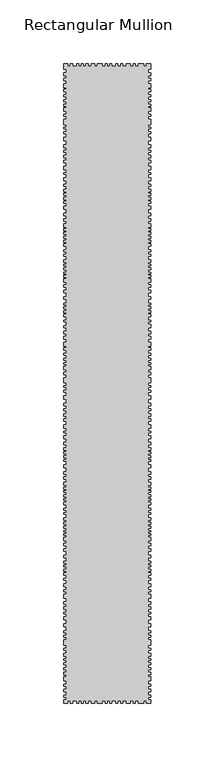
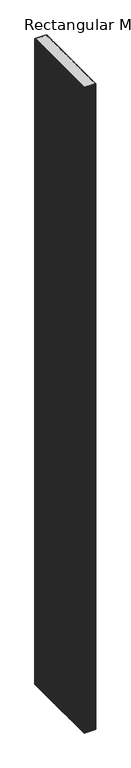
"""IFC4 building model written with IfcOpenShell, lengths in millimetres: member geometry, Rectangular Mullion : DucoSun Cubic Design louvre 500."""

from ifc_helpers import new_model, si_unit, frame, origin, place, context, project, spatial, polyline, outline, extrude, source, transform, mapped, element, save


def rectangular_mullion_54078338(model_context):
    return source(origin(), model_context, "Body", "SweptSolid", [
        extrude(outline(polyline([(0.0, -497.3782451), (0.0, -500.0), (-3.5455586, -500.0), (-3.5455586, -498.0), (-5.372058, -498.0), (-5.372058, -500.0), (-10.0157006, -500.0), (-10.0157006, -498.0), (-12.1827337, -498.0), (-12.1827337, -500.0), (-13.6996569, -500.0), (-13.6996569, -498.0), (-16.0524358, -498.0), (-16.0524358, -500.0), (-19.1172399, -500.0), (-19.1172399, -498.0), (-21.9034254, -498.0), (-21.9034254, -500.0), (-23.6060943, -500.0), (-23.6060943, -498.0), (-25.9898308, -498.0), (-25.9898308, -500.0), (-27.4757964, -500.0), (-27.4757964, -498.0), (-30.5115322, -498.0), (-30.5115322, -500.0), (-32.2905711, -500.0), (-32.2905711, -498.0), (-34.0, -498.0), (-34.0, -500.0), (-35.8486488, -500.0), (-35.8486488, -498.0), (-38.2128978, -498.0), (-38.2128978, -500.0), (-41.9816511, -500.0), (-41.9816511, -498.0), (-44.0415908, -498.0), (-44.0415908, -500.0), (-46.7335575, -500.0), (-46.7335575, -498.0), (-49.0041729, -498.0), (-49.0041729, -500.0), (-50.8768453, -500.0), (-50.8768453, -498.0), (-52.9367851, -498.0), (-52.9367851, -500.0), (-54.2710642, -500.0), (-54.2710642, -498.0), (-56.3075955, -498.0), (-56.3075955, -500.0), (-57.8993671, -500.0), (-57.8993671, -498.0), (-60.9658683, -498.0), (-60.9658683, -500.0), (-62.9321744, -500.0), (-62.9321744, -498.0), (-64.8750721, -498.0), (-64.8750721, -500.0), (-68.0, -500.0), (-68.0, -497.3782451), (-66.0, -497.3782451), (-66.0, -495.4241521), (-68.0, -495.4241521), (-68.0, -493.6532553), (-66.0, -493.6532553), (-66.0, -490.9460223), (-68.0, -490.9460223), (-68.0, -488.9105087), (-66.0, -488.9105087), (-66.0, -486.7121541), (-68.0, -486.7121541), (-68.0, -485.0023227), (-66.0, -485.0023227), (-66.0, -482.3561551), (-68.0, -482.3561551), (-68.0, -479.3843053), (-66.0, -479.3843053), (-66.0, -477.8917893), (-68.0, -477.8917893), (-68.0, -475.8425117), (-66.0, -475.8425117), (-66.0, -473.8680636), (-68.0, -473.8680636), (-68.0, -472.1582322), (-66.0, -472.1582322), (-66.0, -470.0820083), (-68.0, -470.0820083), (-68.0, -468.3111116), (-66.0, -468.3111116), (-66.0, -466.4995045), (-68.0, -466.4995045), (-68.0, -465.0713495), (-66.0, -465.0713495), (-66.0, -463.4577392), (-68.0, -463.4577392), (-68.0, -461.0328231), (-66.0, -461.0328231), (-66.0, -458.5725067), (-68.0, -458.5725067), (-68.0, -457.0325964), (-66.0, -457.0325964), (-66.0, -454.5014796), (-68.0, -454.5014796), (-68.0, -450.4127524), (-66.0, -450.4127524), (-66.0, -448.4126391), (-68.0, -448.4126391), (-68.0, -446.8373286), (-66.0, -446.8373286), (-66.0, -444.9965163), (-68.0, -444.9965163), (-68.0, -443.3504053), (-66.0, -443.3504053), (-66.0, -440.3767855), (-68.0, -440.3767855), (-68.0, -437.9545244), (-66.0, -437.9545244), (-66.0, -434.5552168), (-68.0, -434.5552168), (-68.0, -432.5197032), (-66.0, -432.5197032), (-66.0, -430.239928), (-68.0, -430.239928), (-68.0, -428.6929377), (-66.0, -428.6929377), (-66.0, -426.4335177), (-68.0, -426.4335177), (-68.0, -424.5608452), (-66.0, -424.5608452), (-66.0, -422.6271073), (-68.0, -422.6271073), (-68.0, -420.5508835), (-66.0, -420.5508835), (-66.0, -418.0064916), (-68.0, -418.0064916), (-68.0, -414.9328661), (-66.0, -414.9328661), (-66.0, -412.9177077), (-68.0, -412.9177077), (-68.0, -411.4114277), (-66.0, -411.4114277), (-66.0, -408.9688114), (-68.0, -408.9688114), (-68.0, -406.7118273), (-66.0, -406.7118273), (-66.0, -403.8852623), (-68.0, -403.8852623), (-68.0, -402.4316003), (-66.0, -402.4316003), (-66.0, -399.9011516), (-68.0, -399.9011516), (-68.0, -397.8552569), (-66.0, -397.8552569), (-66.0, -396.6169522), (-68.0, -396.6169522), (-68.0, -395.0825312), (-66.0, -395.0825312), (-66.0, -393.4673512), (-68.0, -393.4673512), (-68.0, -392.0675286), (-66.0, -392.0675286), (-66.0, -390.5869469), (-68.0, -390.5869469), (-68.0, -389.1602046), (-66.0, -389.1602046), (-66.0, -386.3310055), (-68.0, -386.3310055), (-68.0, -384.2608252), (-66.0, -384.2608252), (-66.0, -381.1919832), (-68.0, -381.1919832), (-68.0, -379.2537672), (-66.0, -379.2537672), (-66.0, -376.9360418), (-68.0, -376.9360418), (-68.0, -375.0004598), (-66.0, -375.0004598), (-66.0, -372.9007258), (-68.0, -372.9007258), (-68.0, -370.1010805), (-66.0, -370.1010805), (-66.0, -368.8089365), (-68.0, -368.8089365), (-68.0, -367.3014351), (-66.0, -367.3014351), (-66.0, -366.0362108), (-68.0, -366.0362108), (-68.0, -365.0401831), (-66.0, -365.0401831), (-66.0, -363.2096458), (-68.0, -363.2096458), (-68.0, -361.6483051), (-66.0, -361.6483051), (-66.0, -360.1408038), (-68.0, -360.1408038), (-68.0, -358.6063828), (-66.0, -358.6063828), (-66.0, -357.0719618), (-68.0, -357.0719618), (-68.0, -355.0799064), (-66.0, -355.0799064), (-66.0, -352.3762692), (-68.0, -352.3762692), (-68.0, -350.8903036), (-66.0, -350.8903036), (-66.0, -349.1257194), (-68.0, -349.1257194), (-68.0, -347.6087962), (-66.0, -347.6087962), (-66.0, -344.8535683), (-68.0, -344.8535683), (-68.0, -342.7484504), (-66.0, -342.7484504), (-66.0, -341.4172729), (-68.0, -341.4172729), (-68.0, -339.9622649), (-66.0, -339.9622649), (-66.0, -338.3524688), (-68.0, -338.3524688), (-68.0, -336.8355456), (-66.0, -336.8355456), (-66.0, -335.1947919), (-68.0, -335.1947919), (-68.0, -333.9255296), (-66.0, -333.9255296), (-66.0, -332.5014792), (-68.0, -332.5014792), (-68.0, -331.1083865), (-66.0, -331.1083865), (-66.0, -329.6843361), (-68.0, -329.6843361), (-68.0, -327.0529387), (-66.0, -327.0529387), (-66.0, -324.9787784), (-68.0, -324.9787784), (-68.0, -323.0284485), (-66.0, -323.0284485), (-66.0, -320.7995001), (-68.0, -320.7995001), (-68.0, -318.8182126), (-66.0, -318.8182126), (-66.0, -315.6914933), (-68.0, -315.6914933), (-68.0, -313.4935025), (-66.0, -313.4935025), (-66.0, -310.954978), (-68.0, -310.954978), (-68.0, -309.4070971), (-66.0, -309.4070971), (-66.0, -308.1378348), (-68.0, -308.1378348), (-68.0, -306.4970812), (-66.0, -306.4970812), (-66.0, -304.8253698), (-68.0, -304.8253698), (-68.0, -303.3394042), (-66.0, -303.3394042), (-66.0, -302.0391843), (-68.0, -302.0391843), (-68.0, -300.0578969), (-66.0, -300.0578969), (-66.0, -297.6741604), (-68.0, -297.6741604), (-68.0, -296.0953219), (-66.0, -296.0953219), (-66.0, -293.3091364), (-68.0, -293.3091364), (-68.0, -291.0182728), (-66.0, -291.0182728), (-66.0, -288.572621), (-68.0, -288.572621), (-68.0, -287.1485707), (-66.0, -287.1485707), (-66.0, -285.0124951), (-68.0, -285.0124951), (-68.0, -282.1643944), (-66.0, -282.1643944), (-66.0, -279.3782089), (-68.0, -279.3782089), (-68.0, -277.427879), (-66.0, -277.427879), (-66.0, -275.4156339), (-68.0, -275.4156339), (-68.0, -273.6510498), (-66.0, -273.6510498), (-66.0, -271.1744404), (-68.0, -271.1744404), (-68.0, -269.6884748), (-66.0, -269.6884748), (-66.0, -267.5523993), (-68.0, -267.5523993), (-68.0, -265.4163237), (-66.0, -265.4163237), (-66.0, -262.1967316), (-68.0, -262.1967316), (-68.0, -259.5343765), (-66.0, -259.5343765), (-66.0, -256.7791486), (-68.0, -256.7791486), (-68.0, -255.0764797), (-66.0, -255.0764797), (-66.0, -252.9404041), (-68.0, -252.9404041), (-68.0, -251.6092266), (-66.0, -251.6092266), (-66.0, -249.5660239), (-68.0, -249.5660239), (-68.0, -245.512038), (-66.0, -245.512038), (-66.0, -243.0030092), (-68.0, -243.0030092), (-68.0, -241.3312979), (-66.0, -241.3312979), (-66.0, -239.0404342), (-68.0, -239.0404342), (-68.0, -236.5638249), (-66.0, -236.5638249), (-66.0, -235.015944), (-68.0, -235.015944), (-68.0, -233.5609361), (-66.0, -233.5609361), (-66.0, -231.5796486), (-68.0, -231.5796486), (-68.0, -230.0627254), (-66.0, -230.0627254), (-66.0, -227.8337769), (-68.0, -227.8337769), (-68.0, -226.1620656), (-66.0, -226.1620656), (-66.0, -224.0259901), (-68.0, -224.0259901), (-68.0, -222.0756602), (-66.0, -222.0756602), (-66.0, -220.6516099), (-68.0, -220.6516099), (-68.0, -217.7415939), (-66.0, -217.7415939), (-66.0, -215.2030693), (-68.0, -215.2030693), (-68.0, -213.1908242), (-66.0, -213.1908242), (-66.0, -211.2404944), (-68.0, -211.2404944), (-68.0, -209.1353764), (-66.0, -209.1353764), (-66.0, -206.2563181), (-68.0, -206.2563181), (-68.0, -204.6155644), (-66.0, -204.6155644), (-66.0, -201.7889994), (-68.0, -201.7889994), (-68.0, -200.3353374), (-66.0, -200.3353374), (-66.0, -197.8048887), (-68.0, -197.8048887), (-68.0, -195.758994), (-66.0, -195.758994), (-66.0, -194.5206893), (-68.0, -194.5206893), (-68.0, -192.9862683), (-66.0, -192.9862683), (-66.0, -191.3710883), (-68.0, -191.3710883), (-68.0, -189.9712657), (-66.0, -189.9712657), (-66.0, -188.490684), (-68.0, -188.490684), (-68.0, -187.0639417), (-66.0, -187.0639417), (-66.0, -184.2347426), (-68.0, -184.2347426), (-68.0, -182.1645623), (-66.0, -182.1645623), (-66.0, -179.0957203), (-68.0, -179.0957203), (-68.0, -177.1575043), (-66.0, -177.1575043), (-66.0, -174.8397789), (-68.0, -174.8397789), (-68.0, -172.9041969), (-66.0, -172.9041969), (-66.0, -170.8044629), (-68.0, -170.8044629), (-68.0, -168.0048176), (-66.0, -168.0048176), (-66.0, -166.7126736), (-68.0, -166.7126736), (-68.0, -165.2051722), (-66.0, -165.2051722), (-66.0, -163.9399479), (-68.0, -163.9399479), (-68.0, -162.9439202), (-66.0, -162.9439202), (-66.0, -161.1133829), (-68.0, -161.1133829), (-68.0, -159.5520422), (-66.0, -159.5520422), (-66.0, -158.0445409), (-68.0, -158.0445409), (-68.0, -156.5101199), (-66.0, -156.5101199), (-66.0, -154.9756989), (-68.0, -154.9756989), (-68.0, -152.9836435), (-66.0, -152.9836435), (-66.0, -150.2800063), (-68.0, -150.2800063), (-68.0, -148.7940407), (-66.0, -148.7940407), (-66.0, -147.0294565), (-68.0, -147.0294565), (-68.0, -145.5125333), (-66.0, -145.5125333), (-66.0, -142.7573054), (-68.0, -142.7573054), (-68.0, -140.6521875), (-66.0, -140.6521875), (-66.0, -139.32101), (-68.0, -139.32101), (-68.0, -137.866002), (-66.0, -137.866002), (-66.0, -136.2562059), (-68.0, -136.2562059), (-68.0, -134.7392827), (-66.0, -134.7392827), (-66.0, -133.098529), (-68.0, -133.098529), (-68.0, -131.8292667), (-66.0, -131.8292667), (-66.0, -130.4052163), (-68.0, -130.4052163), (-68.0, -129.0121236), (-66.0, -129.0121236), (-66.0, -127.5880732), (-68.0, -127.5880732), (-68.0, -124.9566758), (-66.0, -124.9566758), (-66.0, -122.8825155), (-68.0, -122.8825155), (-68.0, -120.9321856), (-66.0, -120.9321856), (-66.0, -118.7032372), (-68.0, -118.7032372), (-68.0, -116.7219497), (-66.0, -116.7219497), (-66.0, -113.5952304), (-68.0, -113.5952304), (-68.0, -111.3972396), (-66.0, -111.3972396), (-66.0, -108.8587151), (-68.0, -108.8587151), (-68.0, -107.3108342), (-66.0, -107.3108342), (-66.0, -106.0415719), (-68.0, -106.0415719), (-68.0, -104.4008183), (-66.0, -104.4008183), (-66.0, -102.7291069), (-68.0, -102.7291069), (-68.0, -101.2431413), (-66.0, -101.2431413), (-66.0, -99.9429214), (-68.0, -99.9429214), (-68.0, -97.961634), (-66.0, -97.961634), (-66.0, -95.5778975), (-68.0, -95.5778975), (-68.0, -93.999059), (-66.0, -93.999059), (-66.0, -91.2128735), (-68.0, -91.2128735), (-68.0, -88.9220099), (-66.0, -88.9220099), (-66.0, -86.4763581), (-68.0, -86.4763581), (-68.0, -85.0523078), (-66.0, -85.0523078), (-66.0, -82.9162322), (-68.0, -82.9162322), (-68.0, -80.0681315), (-66.0, -80.0681315), (-66.0, -77.281946), (-68.0, -77.281946), (-68.0, -75.3316161), (-66.0, -75.3316161), (-66.0, -73.319371), (-68.0, -73.319371), (-68.0, -71.5547869), (-66.0, -71.5547869), (-66.0, -69.0781775), (-68.0, -69.0781775), (-68.0, -67.5922119), (-66.0, -67.5922119), (-66.0, -65.4561364), (-68.0, -65.4561364), (-68.0, -63.3200608), (-66.0, -63.3200608), (-66.0, -60.1004687), (-68.0, -60.1004687), (-68.0, -57.4381136), (-66.0, -57.4381136), (-66.0, -54.6828857), (-68.0, -54.6828857), (-68.0, -52.9802168), (-66.0, -52.9802168), (-66.0, -50.8441412), (-68.0, -50.8441412), (-68.0, -49.5129637), (-66.0, -49.5129637), (-66.0, -47.469761), (-68.0, -47.469761), (-68.0, -43.4157751), (-66.0, -43.4157751), (-66.0, -40.9067463), (-68.0, -40.9067463), (-68.0, -39.235035), (-66.0, -39.235035), (-66.0, -36.9441713), (-68.0, -36.9441713), (-68.0, -34.467562), (-66.0, -34.467562), (-66.0, -32.9196811), (-68.0, -32.9196811), (-68.0, -31.4646731), (-66.0, -31.4646731), (-66.0, -29.4833857), (-68.0, -29.4833857), (-68.0, -27.9664625), (-66.0, -27.9664625), (-66.0, -25.737514), (-68.0, -25.737514), (-68.0, -24.0658027), (-66.0, -24.0658027), (-66.0, -21.9297272), (-68.0, -21.9297272), (-68.0, -19.9793973), (-66.0, -19.9793973), (-66.0, -18.555347), (-68.0, -18.555347), (-68.0, -15.645331), (-66.0, -15.645331), (-66.0, -13.1068064), (-68.0, -13.1068064), (-68.0, -11.0945613), (-66.0, -11.0945613), (-66.0, -9.1442315), (-68.0, -9.1442315), (-68.0, -7.0391135), (-66.0, -7.0391135), (-66.0, -4.0), (-68.0, -4.0), (-68.0, 0.0), (-64.8750721, 0.0), (-64.8750721, -2.0), (-62.9321744, -2.0), (-62.9321744, 0.0), (-60.9658683, 0.0), (-60.9658683, -2.0), (-57.8993671, -2.0), (-57.8993671, 0.0), (-56.3075955, 0.0), (-56.3075955, -2.0), (-54.2710642, -2.0), (-54.2710642, 0.0), (-52.9367851, 0.0), (-52.9367851, -2.0), (-50.8768453, -2.0), (-50.8768453, 0.0), (-49.0041729, 0.0), (-49.0041729, -2.0), (-46.7335575, -2.0), (-46.7335575, 0.0), (-44.0415908, 0.0), (-44.0415908, -2.0), (-41.9816511, -2.0), (-41.9816511, 0.0), (-38.2128978, 0.0), (-38.2128978, -2.0), (-35.8486488, -2.0), (-35.8486488, 0.0), (-34.0, 0.0), (-34.0, -2.0), (-32.2905711, -2.0), (-32.2905711, 0.0), (-30.5115322, 0.0), (-30.5115322, -2.0), (-27.4757964, -2.0), (-27.4757964, 0.0), (-25.9898308, 0.0), (-25.9898308, -2.0), (-23.6060943, -2.0), (-23.6060943, 0.0), (-21.9034254, 0.0), (-21.9034254, -2.0), (-19.1172399, -2.0), (-19.1172399, 0.0), (-16.0524358, 0.0), (-16.0524358, -2.0), (-13.6996569, -2.0), (-13.6996569, 0.0), (-12.1827337, 0.0), (-12.1827337, -2.0), (-10.0157006, -2.0), (-10.0157006, 0.0), (-5.372058, 0.0), (-5.372058, -2.0), (-3.5455586, -2.0), (-3.5455586, 0.0), (0.0, 0.0), (0.0, -4.0), (-2.0, -4.0), (-2.0, -7.0391135), (0.0, -7.0391135), (0.0, -9.1442315), (-2.0, -9.1442315), (-2.0, -11.0945613), (0.0, -11.0945613), (0.0, -13.1068064), (-2.0, -13.1068064), (-2.0, -15.645331), (0.0, -15.645331), (0.0, -18.555347), (-2.0, -18.555347), (-2.0, -19.9793973), (0.0, -19.9793973), (0.0, -21.9297272), (-2.0, -21.9297272), (-2.0, -24.0658027), (0.0, -24.0658027), (0.0, -25.737514), (-2.0, -25.737514), (-2.0, -27.9664625), (0.0, -27.9664625), (0.0, -29.4833857), (-2.0, -29.4833857), (-2.0, -31.4646731), (0.0, -31.4646731), (0.0, -32.9196811), (-2.0, -32.9196811), (-2.0, -34.467562), (0.0, -34.467562), (0.0, -36.9441713), (-2.0, -36.9441713), (-2.0, -39.235035), (0.0, -39.235035), (0.0, -40.9067463), (-2.0, -40.9067463), (-2.0, -43.4157751), (0.0, -43.4157751), (0.0, -47.469761), (-2.0, -47.469761), (-2.0, -49.5129637), (0.0, -49.5129637), (0.0, -50.8441412), (-2.0, -50.8441412), (-2.0, -52.9802168), (0.0, -52.9802168), (0.0, -54.6828857), (-2.0, -54.6828857), (-2.0, -57.4381136), (0.0, -57.4381136), (0.0, -60.1004687), (-2.0, -60.1004687), (-2.0, -63.3200608), (0.0, -63.3200608), (0.0, -65.4561364), (-2.0, -65.4561364), (-2.0, -67.5922119), (0.0, -67.5922119), (0.0, -69.0781775), (-2.0, -69.0781775), (-2.0, -71.5547869), (0.0, -71.5547869), (0.0, -73.319371), (-2.0, -73.319371), (-2.0, -75.3316161), (0.0, -75.3316161), (0.0, -77.281946), (-2.0, -77.281946), (-2.0, -80.0681315), (0.0, -80.0681315), (0.0, -82.9162322), (-2.0, -82.9162322), (-2.0, -85.0523078), (0.0, -85.0523078), (0.0, -86.4763581), (-2.0, -86.4763581), (-2.0, -88.9220099), (0.0, -88.9220099), (0.0, -91.2128735), (-2.0, -91.2128735), (-2.0, -93.999059), (0.0, -93.999059), (0.0, -95.5778975), (-2.0, -95.5778975), (-2.0, -97.961634), (0.0, -97.961634), (0.0, -99.9429214), (-2.0, -99.9429214), (-2.0, -101.2431413), (0.0, -101.2431413), (0.0, -102.7291069), (-2.0, -102.7291069), (-2.0, -104.4008183), (0.0, -104.4008183), (0.0, -106.0415719), (-2.0, -106.0415719), (-2.0, -107.3108342), (0.0, -107.3108342), (0.0, -108.8587151), (-2.0, -108.8587151), (-2.0, -111.3972396), (0.0, -111.3972396), (0.0, -113.5952304), (-2.0, -113.5952304), (-2.0, -116.7219497), (0.0, -116.7219497), (0.0, -118.7032372), (-2.0, -118.7032372), (-2.0, -120.9321856), (0.0, -120.9321856), (0.0, -122.8825155), (-2.0, -122.8825155), (-2.0, -124.9566758), (0.0, -124.9566758), (0.0, -127.5880732), (-2.0, -127.5880732), (-2.0, -129.0121236), (0.0, -129.0121236), (0.0, -130.4052163), (-2.0, -130.4052163), (-2.0, -131.8292667), (0.0, -131.8292667), (0.0, -133.098529), (-2.0, -133.098529), (-2.0, -134.7392827), (0.0, -134.7392827), (0.0, -136.2562059), (-2.0, -136.2562059), (-2.0, -137.866002), (0.0, -137.866002), (0.0, -139.32101), (-2.0, -139.32101), (-2.0, -140.6521875), (0.0, -140.6521875), (0.0, -142.7573054), (-2.0, -142.7573054), (-2.0, -145.5125333), (0.0, -145.5125333), (0.0, -147.0294565), (-2.0, -147.0294565), (-2.0, -148.7940407), (0.0, -148.7940407), (0.0, -150.2800063), (-2.0, -150.2800063), (-2.0, -152.9836435), (0.0, -152.9836435), (0.0, -154.9756989), (-2.0, -154.9756989), (-2.0, -156.5101199), (0.0, -156.5101199), (0.0, -158.0445409), (-2.0, -158.0445409), (-2.0, -159.5520422), (0.0, -159.5520422), (0.0, -161.1133829), (-2.0, -161.1133829), (-2.0, -162.9439202), (0.0, -162.9439202), (0.0, -163.9399479), (-2.0, -163.9399479), (-2.0, -165.2051722), (0.0, -165.2051722), (0.0, -166.7126736), (-2.0, -166.7126736), (-2.0, -168.0048176), (0.0, -168.0048176), (0.0, -170.8044629), (-2.0, -170.8044629), (-2.0, -172.9041969), (0.0, -172.9041969), (0.0, -174.8397789), (-2.0, -174.8397789), (-2.0, -177.1575043), (0.0, -177.1575043), (0.0, -179.0957203), (-2.0, -179.0957203), (-2.0, -182.1645623), (0.0, -182.1645623), (0.0, -184.2347426), (-2.0, -184.2347426), (-2.0, -187.0639417), (0.0, -187.0639417), (0.0, -188.490684), (-2.0, -188.490684), (-2.0, -189.9712657), (0.0, -189.9712657), (0.0, -191.3710883), (-2.0, -191.3710883), (-2.0, -192.9862683), (0.0, -192.9862683), (0.0, -194.5206893), (-2.0, -194.5206893), (-2.0, -195.758994), (0.0, -195.758994), (0.0, -197.8048887), (-2.0, -197.8048887), (-2.0, -200.3353374), (0.0, -200.3353374), (0.0, -201.7889994), (-2.0, -201.7889994), (-2.0, -203.7186411), (0.0, -203.7186411), (0.0, -206.2563181), (-2.0, -206.2563181), (-2.0, -209.1353764), (0.0, -209.1353764), (0.0, -211.2404944), (-2.0, -211.2404944), (-2.0, -213.1908242), (0.0, -213.1908242), (0.0, -215.2030693), (-2.0, -215.2030693), (-2.0, -217.7415939), (0.0, -217.7415939), (0.0, -220.6516099), (-2.0, -220.6516099), (-2.0, -222.0756602), (0.0, -222.0756602), (0.0, -224.0259901), (-2.0, -224.0259901), (-2.0, -226.1620656), (0.0, -226.1620656), (0.0, -227.8337769), (-2.0, -227.8337769), (-2.0, -230.0627254), (0.0, -230.0627254), (0.0, -231.5796486), (-2.0, -231.5796486), (-2.0, -233.5609361), (0.0, -233.5609361), (0.0, -235.015944), (-2.0, -235.015944), (-2.0, -236.5638249), (0.0, -236.5638249), (0.0, -239.0404342), (-2.0, -239.0404342), (-2.0, -241.3312979), (0.0, -241.3312979), (0.0, -243.0030092), (-2.0, -243.0030092), (-2.0, -245.512038), (0.0, -245.512038), (0.0, -249.5660239), (-2.0, -249.5660239), (-2.0, -251.6092266), (0.0, -251.6092266), (0.0, -252.9404041), (-2.0, -252.9404041), (-2.0, -255.0764797), (0.0, -255.0764797), (0.0, -256.7791486), (-2.0, -256.7791486), (-2.0, -259.5343765), (0.0, -259.5343765), (0.0, -262.1967316), (-2.0, -262.1967316), (-2.0, -265.4163237), (0.0, -265.4163237), (0.0, -267.5523993), (-2.0, -267.5523993), (-2.0, -269.6884748), (0.0, -269.6884748), (0.0, -271.1744404), (-2.0, -271.1744404), (-2.0, -273.6510498), (0.0, -273.6510498), (0.0, -275.4156339), (-2.0, -275.4156339), (-2.0, -277.427879), (0.0, -277.427879), (0.0, -279.3782089), (-2.0, -279.3782089), (-2.0, -282.1643944), (0.0, -282.1643944), (0.0, -285.0124951), (-2.0, -285.0124951), (-2.0, -287.1485707), (0.0, -287.1485707), (0.0, -288.572621), (-2.0, -288.572621), (-2.0, -291.0182728), (0.0, -291.0182728), (0.0, -293.3091364), (-2.0, -293.3091364), (-2.0, -296.0953219), (0.0, -296.0953219), (0.0, -297.6741604), (-2.0, -297.6741604), (-2.0, -300.0578969), (0.0, -300.0578969), (0.0, -302.0391843), (-2.0, -302.0391843), (-2.0, -303.3394042), (0.0, -303.3394042), (0.0, -304.8253698), (-2.0, -304.8253698), (-2.0, -306.4970812), (0.0, -306.4970812), (0.0, -308.1378348), (-2.0, -308.1378348), (-2.0, -309.4070971), (0.0, -309.4070971), (0.0, -310.954978), (-2.0, -310.954978), (-2.0, -313.4935025), (0.0, -313.4935025), (0.0, -315.6914933), (-2.0, -315.6914933), (-2.0, -318.8182126), (0.0, -318.8182126), (0.0, -320.7995001), (-2.0, -320.7995001), (-2.0, -323.0284485), (0.0, -323.0284485), (0.0, -324.9787784), (-2.0, -324.9787784), (-2.0, -327.0529387), (0.0, -327.0529387), (0.0, -329.6843361), (-2.0, -329.6843361), (-2.0, -331.1083865), (0.0, -331.1083865), (0.0, -332.5014792), (-2.0, -332.5014792), (-2.0, -333.9255296), (0.0, -333.9255296), (0.0, -335.1947919), (-2.0, -335.1947919), (-2.0, -336.8355456), (0.0, -336.8355456), (0.0, -338.3524688), (-2.0, -338.3524688), (-2.0, -339.9622649), (0.0, -339.9622649), (0.0, -341.4172729), (-2.0, -341.4172729), (-2.0, -342.7484504), (0.0, -342.7484504), (0.0, -344.8535683), (-2.0, -344.8535683), (-2.0, -347.6087962), (0.0, -347.6087962), (0.0, -349.1257194), (-2.0, -349.1257194), (-2.0, -350.8903036), (0.0, -350.8903036), (0.0, -352.3762692), (-2.0, -352.3762692), (-2.0, -355.0799064), (0.0, -355.0799064), (0.0, -357.0719618), (-2.0, -357.0719618), (-2.0, -358.6063828), (0.0, -358.6063828), (0.0, -360.1408038), (-2.0, -360.1408038), (-2.0, -361.6483051), (0.0, -361.6483051), (0.0, -363.2096458), (-2.0, -363.2096458), (-2.0, -365.0401831), (0.0, -365.0401831), (0.0, -366.0362108), (-2.0, -366.0362108), (-2.0, -367.3014351), (0.0, -367.3014351), (0.0, -368.8089365), (-2.0, -368.8089365), (-2.0, -370.1010805), (0.0, -370.1010805), (0.0, -372.9007258), (-2.0, -372.9007258), (-2.0, -375.0004598), (0.0, -375.0004598), (0.0, -376.9360418), (-2.0, -376.9360418), (-2.0, -379.2537672), (0.0, -379.2537672), (0.0, -381.1919832), (-2.0, -381.1919832), (-2.0, -384.2608252), (0.0, -384.2608252), (0.0, -386.3310055), (-2.0, -386.3310055), (-2.0, -389.1602046), (0.0, -389.1602046), (0.0, -390.5869469), (-2.0, -390.5869469), (-2.0, -392.0675286), (0.0, -392.0675286), (0.0, -393.4673512), (-2.0, -393.4673512), (-2.0, -395.0825312), (0.0, -395.0825312), (0.0, -396.6169522), (-2.0, -396.6169522), (-2.0, -397.8552569), (0.0, -397.8552569), (0.0, -399.9011516), (-2.0, -399.9011516), (-2.0, -402.4316003), (0.0, -402.4316003), (0.0, -403.8852623), (-2.0, -403.8852623), (-2.0, -406.7118273), (0.0, -406.7118273), (0.0, -408.9688114), (-2.0, -408.9688114), (-2.0, -411.4114277), (0.0, -411.4114277), (0.0, -412.9177077), (-2.0, -412.9177077), (-2.0, -414.9328661), (0.0, -414.9328661), (0.0, -418.0064916), (-2.0, -418.0064916), (-2.0, -420.5508835), (0.0, -420.5508835), (0.0, -422.6271073), (-2.0, -422.6271073), (-2.0, -424.5608452), (0.0, -424.5608452), (0.0, -426.4335177), (-2.0, -426.4335177), (-2.0, -428.6929377), (0.0, -428.6929377), (0.0, -430.239928), (-2.0, -430.239928), (-2.0, -432.5197032), (0.0, -432.5197032), (0.0, -434.5552168), (-2.0, -434.5552168), (-2.0, -437.9545244), (0.0, -437.9545244), (0.0, -440.3767855), (-2.0, -440.3767855), (-2.0, -443.3504053), (0.0, -443.3504053), (0.0, -444.9965163), (-2.0, -444.9965163), (-2.0, -446.8373286), (0.0, -446.8373286), (0.0, -448.4126391), (-2.0, -448.4126391), (-2.0, -450.4127524), (0.0, -450.4127524), (0.0, -454.5014796), (-2.0, -454.5014796), (-2.0, -457.0325964), (0.0, -457.0325964), (0.0, -458.5725067), (-2.0, -458.5725067), (-2.0, -461.0328231), (0.0, -461.0328231), (0.0, -463.4577392), (-2.0, -463.4577392), (-2.0, -465.0713495), (0.0, -465.0713495), (0.0, -466.4995045), (-2.0, -466.4995045), (-2.0, -468.3111116), (0.0, -468.3111116), (0.0, -470.0820083), (-2.0, -470.0820083), (-2.0, -472.1582322), (0.0, -472.1582322), (0.0, -473.8680636), (-2.0, -473.8680636), (-2.0, -475.8425117), (0.0, -475.8425117), (0.0, -477.8917893), (-2.0, -477.8917893), (-2.0, -479.3843053), (0.0, -479.3843053), (0.0, -482.3561551), (-2.0, -482.3561551), (-2.0, -485.0023227), (0.0, -485.0023227), (0.0, -486.7121541), (-2.0, -486.7121541), (-2.0, -488.9105087), (0.0, -488.9105087), (0.0, -490.9460223), (-2.0, -490.9460223), (-2.0, -493.6532553), (0.0, -493.6532553), (0.0, -495.4241521), (-2.0, -495.4241521), (-2.0, -497.3782451), (0.0, -497.3782451)])), frame((0.0, 0.0, -4000.0), z_axis=(0.0, 0.0, 1.0), x_axis=(1.0, 0.0, 0.0)), (0.0, 0.0, 1.0), 4000.0),
    ])


if __name__ == "__main__":
    model = new_model("IFC4")
    model_context = context("Model", 3, world=origin())
    ifc_project = project(units=[si_unit("LENGTHUNIT", "METRE", prefix="MILLI")], contexts=[model_context])
    site = spatial("IfcSite", under=ifc_project)
    building = spatial("IfcBuilding", under=site)
    placement = place(None, origin())
    rectangular_mullion_shape = rectangular_mullion_54078338(model_context)
    element("IfcMember", 1, ObjectType="Rectangular Mullion : DucoSun Cubic Design louvre 500", at=placement, inside=building, context=model_context, shape_type="MappedRepresentation", body=[
        mapped(rectangular_mullion_shape, transform((0.0, 0.0, 0.0), x_axis=(1.0, 0.0, 0.0), y_axis=(0.0, 1.0, 0.0), z_axis=(0.0, 0.0, 1.0))),
    ])
    save(model, "model.ifc")
